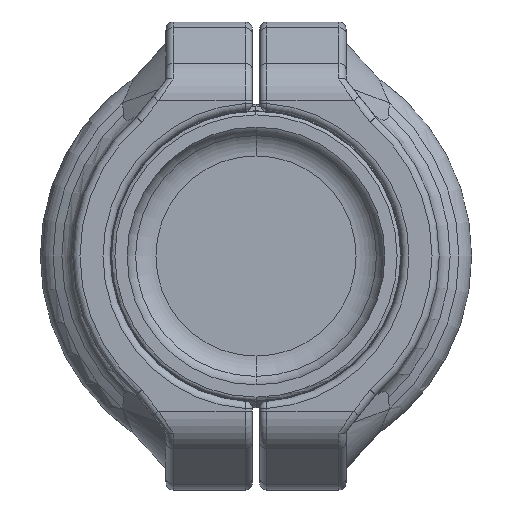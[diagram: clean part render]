
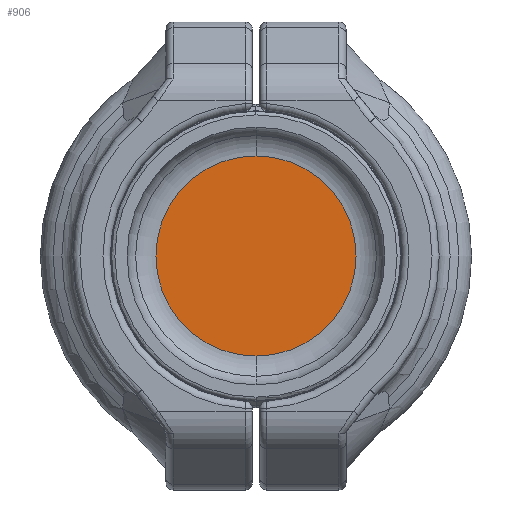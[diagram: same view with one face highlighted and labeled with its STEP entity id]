
A CAD part, left-side view. The second image highlights one B-rep face of the part: STEP entity #906.
In plain terms, the highlighted planar face has unit normal (-1, 0, 0).
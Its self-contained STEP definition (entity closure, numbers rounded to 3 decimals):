
#445=CARTESIAN_POINT('',(-10.,0.,0.));
#446=DIRECTION('',(1.,0.,0.));
#447=DIRECTION('',(0.,0.,1.));
#448=AXIS2_PLACEMENT_3D('',#445,#446,#447);
#453=CARTESIAN_POINT('',(-10.,0.,0.));
#454=DIRECTION('',(1.,0.,0.));
#455=DIRECTION('',(0.,0.,-1.));
#456=AXIS2_PLACEMENT_3D('',#453,#454,#455);
#529=CARTESIAN_POINT('',(-10.,0.,13.9));
#530=CARTESIAN_POINT('',(-10.,0.,-13.9));
#531=VERTEX_POINT('',#529);
#532=VERTEX_POINT('',#530);
#896=CARTESIAN_POINT('',(-10.,13.1,0.));
#897=DIRECTION('',(1.,0.,0.));
#898=DIRECTION('',(0.,0.,-1.));
#899=AXIS2_PLACEMENT_3D('',#896,#897,#898);
#900=PLANE('',#899);
#901=ORIENTED_EDGE('',*,*,#886,.T.);
#903=ORIENTED_EDGE('',*,*,#902,.T.);
#904=EDGE_LOOP('',(#901,#903));
#905=FACE_OUTER_BOUND('',#904,.F.);
#449=CIRCLE('',#448,13.9);
#457=CIRCLE('',#456,13.9);
#886=EDGE_CURVE('',#531,#532,#449,.T.);
#902=EDGE_CURVE('',#532,#531,#457,.T.);
#906=ADVANCED_FACE('',(#905),#900,.F.);
